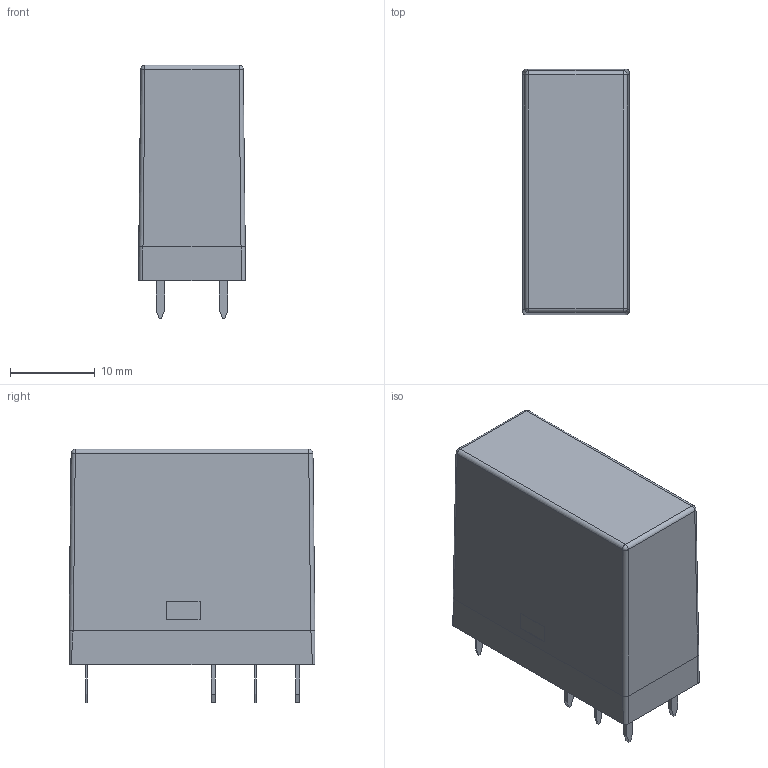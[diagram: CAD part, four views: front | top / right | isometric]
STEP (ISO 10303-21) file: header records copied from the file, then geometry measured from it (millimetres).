
FILE_DESCRIPTION (( 'STEP AP214' ), '1' );
FILE_NAME ('C16-xxxPTL.STEP', '2024-03-26T09:51:44', ( '' ), ( '' ), 'SwSTEP 2.0', 'SolidWorks 2022', '' );
FILE_SCHEMA (( 'AUTOMOTIVE_DESIGN' ));
Length unit declared in the file: millimetre
Products named in the file (1): C16-xxxPTL
Bounding box: 12.6 x 29.1 x 30 mm (x, y, z)
Volume: 9134 mm3; surface area: 2871.8 mm2
Topology: 1 solids, 1 shells, 94 faces, 228 edges, 142 vertices
Faces by surface type: plane 76, cylinder 14, sphere 4
Entity records: 3519 total; most frequent: CARTESIAN_POINT 515, ORIENTED_EDGE 448, DIRECTION 412, EDGE_CURVE 224, LINE 198, VECTOR 198, VERTEX_POINT 142, AXIS2_PLACEMENT_3D 107
